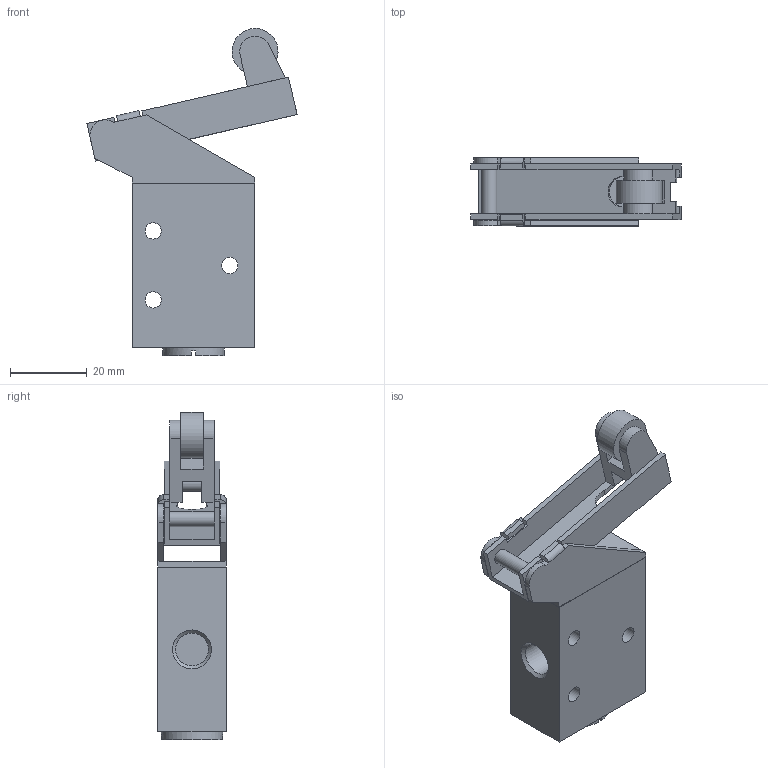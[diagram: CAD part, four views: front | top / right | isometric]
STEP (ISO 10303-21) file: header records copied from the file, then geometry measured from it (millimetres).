
FILE_DESCRIPTION((''),'2;1');
FILE_NAME('I:\Area Tecnica\Documenti\A-Roberto\_Inventor\Rev.Librerie\700\NEW\718_32_3_#.stp','2008-02-25T14:13:42',('rivolro1'),(''),'Autodesk Inventor 2008','Autodesk Inventor 2008','');
FILE_SCHEMA(('AUTOMOTIVE_DESIGN { 1 0 10303 214 1 1 1 1 }'));
Length unit declared in the file: millimetre
Products named in the file (3): 718_32_3_#; 718_32_3_#(A); 718_32_3_#(B)
Assembly tree (2 placements, depth 2):
  718_32_3_#
    718_32_3_#(A)
    718_32_3_#(B)
Bounding box: 54.87 x 18 x 85.33 mm (x, y, z)
Volume: 29514.4 mm3; surface area: 14599.5 mm2
Topology: 3 solids, 3 shells, 113 faces, 278 edges, 175 vertices
Faces by surface type: plane 80, bspline 17, cylinder 16
Full cylindrical faces by diameter (mm): 4 x2, 4.25 x3, 12 x1, 16 x1
Entity records: 3480 total; most frequent: CARTESIAN_POINT 743, ORIENTED_EDGE 520, DIRECTION 518, EDGE_CURVE 260, VECTOR 204, LINE 204, VERTEX_POINT 174, AXIS2_PLACEMENT_3D 157
